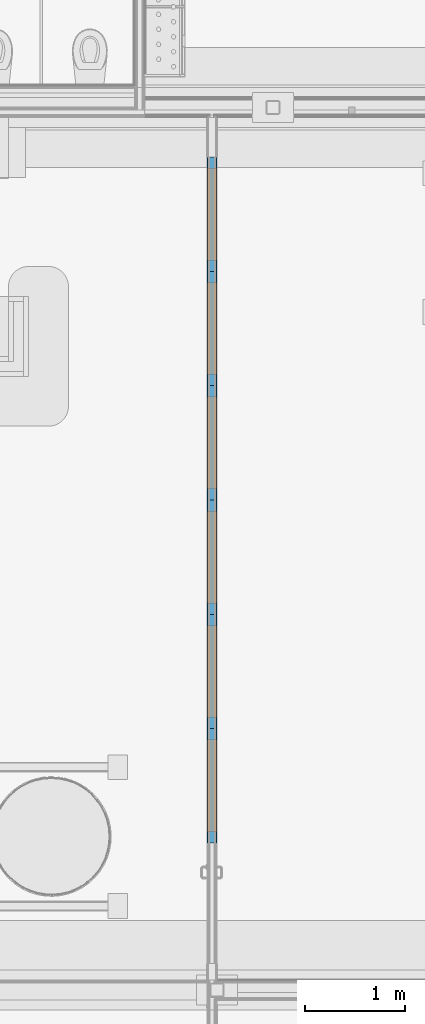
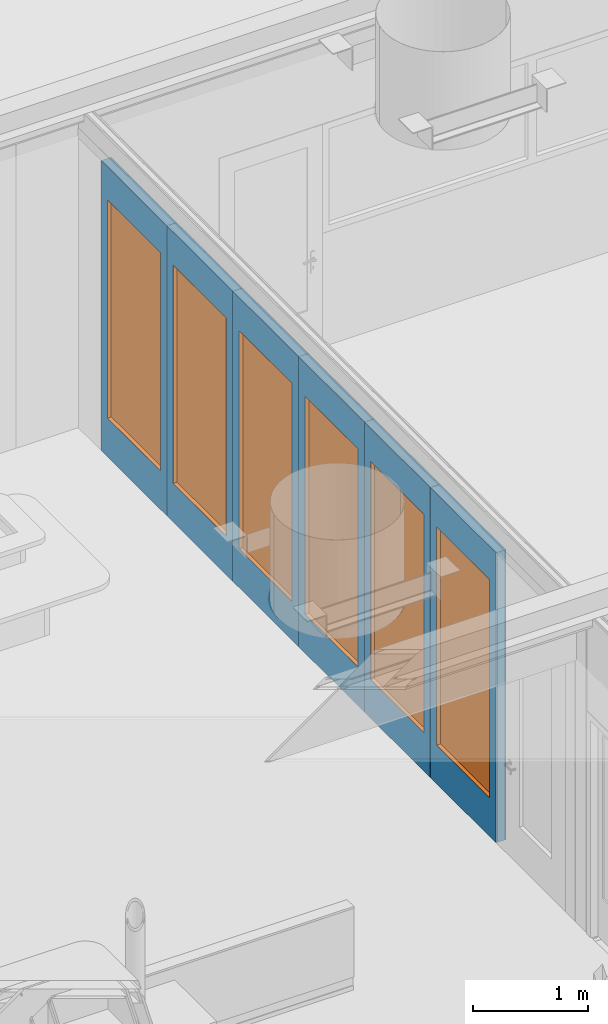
# One storey, part 18 of 788: 18 building element parts, 6 proxies, 6 openings, 6 elements without a shape of their own.
"""IFC2X3 building model written with IfcOpenShell, lengths in millimetres."""

from ifc_helpers import new_model, entity, si_unit, converted_unit, derived_unit, money_unit, direction, frame, origin_with_axes, place, context, subcontext, project, spatial, open_shell, faceted_brep, surface_model, source, transform, mapped, material, type_object, type_shapes, element, fill, aggregate, save


model = new_model("IFC2X3")

# Units and contexts
model_context = context("Model", 3, precision=0.01, world=origin_with_axes(), true_north=direction((0.0, 1.0)))
plan_context = context("Plan", 3, precision=0.01, world=origin_with_axes(), true_north=direction((0.0, 1.0)))
body_context = subcontext(model_context, "Body", "Model", "MODEL_VIEW")
ifc_project = project(units=[si_unit("LENGTHUNIT", "METRE", prefix="MILLI"), si_unit("AREAUNIT", "SQUARE_METRE"), si_unit("VOLUMEUNIT", "CUBIC_METRE"), converted_unit("PLANEANGLEUNIT", "DEGREE", entity("IfcPlaneAngleMeasure", 0.0174532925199), si_unit("PLANEANGLEUNIT", "RADIAN"), dimensions=[0, 0, 0, 0, 0, 0, 0]), money_unit("EUR"), converted_unit("TIMEUNIT", "Year", entity("IfcTimeMeasure", 31556926.0), si_unit("TIMEUNIT", "SECOND"), dimensions=[0, 0, 1, 0, 0, 0, 0]), si_unit("MASSUNIT", "GRAM", prefix="KILO"), si_unit("THERMODYNAMICTEMPERATUREUNIT", "DEGREE_CELSIUS"), si_unit("LUMINOUSINTENSITYUNIT", "LUMEN"), si_unit("ENERGYUNIT", "JOULE", prefix="MEGA"), derived_unit("THERMALCONDUCTANCEUNIT", [(si_unit("POWERUNIT", "WATT"), 1), (si_unit("LENGTHUNIT", "METRE"), -1), (si_unit("THERMODYNAMICTEMPERATUREUNIT", "KELVIN"), -1)]), derived_unit("SPECIFICHEATCAPACITYUNIT", [(si_unit("ENERGYUNIT", "JOULE"), 1), (si_unit("MASSUNIT", "GRAM", prefix="KILO"), -1), (si_unit("THERMODYNAMICTEMPERATUREUNIT", "KELVIN"), -1)]), derived_unit("MASSDENSITYUNIT", [(si_unit("MASSUNIT", "GRAM", prefix="KILO"), 1), (si_unit("VOLUMEUNIT", "CUBIC_METRE"), -1)])], contexts=[model_context, plan_context])

# Site, building, storey
site_placement = place(None, origin_with_axes())
site = spatial("IfcSite", under=ifc_project, at=site_placement, Name="Site", CompositionType="ELEMENT")
building_placement = place(site_placement, origin_with_axes())
building = spatial("IfcBuilding", under=site, at=building_placement, Name="Naam gebouw", CompositionType="ELEMENT")
storey_placement = place(building_placement, origin_with_axes())
storey = spatial("IfcBuildingStorey", under=building, at=storey_placement, Name="Begane grond", CompositionType="ELEMENT", Elevation=0.0)

# Proxy
building_element_proxy_type_1 = type_object("IfcBuildingElementProxyType", Name="R1 25", PredefinedType="NOTDEFINED")
shared_shape = source(origin_with_axes(), body_context, "Body", "SurfaceModel", [
    faceted_brep([(-460.5, -102.0, 2318.0), (-460.5, 0.0, 2318.0), (-462.5, 0.0, 2318.0), (-462.5, -102.0, 2318.0), (-460.5, -102.0, 2.0), (-460.5, 0.0, 2.0), (-462.5, 0.0, 2.0), (-462.5, -102.0, 2.0)], [[[0, 1, 2, 3]], [[4, 5, 1, 0]], [[1, 5, 6, 2]], [[3, 2, 6, 7]], [[0, 3, 7, 4]], [[7, 6, 5, 4]]]),
    faceted_brep([(460.5, -102.0, 2.0), (460.5, 0.0, 2.0), (462.5, 0.0, 2.0), (462.5, -102.0, 2.0), (460.5, -102.0, 2318.0), (460.5, 0.0, 2318.0), (462.5, 0.0, 2318.0), (462.5, -102.0, 2318.0)], [[[0, 1, 2, 3]], [[4, 5, 1, 0]], [[1, 5, 6, 2]], [[3, 2, 6, 7]], [[0, 3, 7, 4]], [[7, 6, 5, 4]]]),
    faceted_brep([(-460.5, -102.0, 2.0), (-460.5, 0.0, 2.0), (-462.5, 0.0, 2.0), (-462.5, -102.0, 2.0), (460.5, -102.0, 2.0), (460.5, 0.0, 2.0), (462.5, 0.0, 2.0), (462.5, 0.0, 0.0), (-462.5, 0.0, 0.0), (-462.5, -102.0, 0.0), (462.5, -102.0, 0.0), (462.5, -102.0, 2.0)], [[[0, 1, 2, 3]], [[4, 5, 1, 0]], [[1, 5, 6, 7, 8, 2]], [[3, 2, 8, 9]], [[0, 3, 9, 10, 11, 4]], [[11, 6, 5, 4]], [[10, 7, 6, 11]], [[9, 8, 7, 10]]]),
    faceted_brep([(460.5, -102.0, 2318.0), (460.5, 0.0, 2318.0), (462.5, 0.0, 2318.0), (462.5, -102.0, 2318.0), (-460.5, -102.0, 2318.0), (-460.5, 0.0, 2318.0), (-462.5, 0.0, 2318.0), (-462.5, 0.0, 2320.0), (462.5, 0.0, 2320.0), (462.5, -102.0, 2320.0), (-462.5, -102.0, 2320.0), (-462.5, -102.0, 2318.0)], [[[0, 1, 2, 3]], [[4, 5, 1, 0]], [[1, 5, 6, 7, 8, 2]], [[3, 2, 8, 9]], [[0, 3, 9, 10, 11, 4]], [[11, 6, 5, 4]], [[10, 7, 6, 11]], [[9, 8, 7, 10]]]),
    surface_model("IfcShellBasedSurfaceModel", [(-460.5, -64.0, 2.0), (460.5, -64.0, 2.0), (460.5, -64.0, 2318.0), (-460.5, -64.0, 2318.0)], [open_shell([[[0, 1, 2, 3]]])]),
    surface_model("IfcShellBasedSurfaceModel", [(-460.5, -44.0, 2.0), (-460.5, -44.0, 2318.0), (460.5, -44.0, 2318.0), (460.5, -44.0, 2.0)], [open_shell([[[0, 1, 2, 3]]])]),
])
type_shapes(building_element_proxy_type_1, [shared_shape])
proxy_7_placement = place(storey_placement, frame((38279.7087172, 14206.996428, 10.0), z_axis=(0.0, 0.0, 1.0), x_axis=(0.0, 1.0, 0.0)))
opening_1_placement = place(proxy_7_placement, frame((572.5, 0.0, 410.0), z_axis=(0.0, 0.0, 1.0), x_axis=(1.0, 0.0, 0.0)))
proxy_1_placement = place(opening_1_placement, frame((462.5, 0.0, 0.0), z_axis=(0.0, 0.0, 1.0), x_axis=(-1.0, 0.0, 0.0)))
proxy_1 = element("IfcBuildingElementProxy", 1, at=proxy_1_placement, inside=storey, type_object=building_element_proxy_type_1, Name="raam panelenwand", context=body_context, shape_type="MappedRepresentation", body=[
    mapped(shared_shape, transform((462.5, 51.0, 0.0))),
])

proxy_8_placement = place(storey_placement, frame((38279.7087172, 15352.996428, 10.0), z_axis=(0.0, 0.0, 1.0), x_axis=(0.0, 1.0, 0.0)))
opening_2_placement = place(proxy_8_placement, frame((572.5, 0.0, 410.0), z_axis=(0.0, 0.0, 1.0), x_axis=(1.0, 0.0, 0.0)))
proxy_2_placement = place(opening_2_placement, frame((462.5, 0.0, 0.0), z_axis=(0.0, 0.0, 1.0), x_axis=(-1.0, 0.0, 0.0)))
proxy_2 = element("IfcBuildingElementProxy", 2, at=proxy_2_placement, inside=storey, type_object=building_element_proxy_type_1, Name="raam panelenwand", context=body_context, shape_type="MappedRepresentation", body=[
    mapped(shared_shape, transform((462.5, 51.0, 0.0))),
])

proxy_9_placement = place(storey_placement, frame((38279.7087172, 16498.996428, 10.0), z_axis=(0.0, 0.0, 1.0), x_axis=(0.0, 1.0, 0.0)))
opening_3_placement = place(proxy_9_placement, frame((572.5, 0.0, 410.0), z_axis=(0.0, 0.0, 1.0), x_axis=(1.0, 0.0, 0.0)))
proxy_3_placement = place(opening_3_placement, frame((462.5, 0.0, 0.0), z_axis=(0.0, 0.0, 1.0), x_axis=(-1.0, 0.0, 0.0)))
proxy_3 = element("IfcBuildingElementProxy", 3, at=proxy_3_placement, inside=storey, type_object=building_element_proxy_type_1, Name="raam panelenwand", context=body_context, shape_type="MappedRepresentation", body=[
    mapped(shared_shape, transform((462.5, 51.0, 0.0))),
])

proxy_10_placement = place(storey_placement, frame((38279.7087172, 17644.996428, 10.0), z_axis=(0.0, 0.0, 1.0), x_axis=(0.0, 1.0, 0.0)))
opening_4_placement = place(proxy_10_placement, frame((572.5, 0.0, 410.0), z_axis=(0.0, 0.0, 1.0), x_axis=(1.0, 0.0, 0.0)))
proxy_4_placement = place(opening_4_placement, frame((462.5, 0.0, 0.0), z_axis=(0.0, 0.0, 1.0), x_axis=(-1.0, 0.0, 0.0)))
proxy_4 = element("IfcBuildingElementProxy", 4, at=proxy_4_placement, inside=storey, type_object=building_element_proxy_type_1, Name="raam panelenwand", context=body_context, shape_type="MappedRepresentation", body=[
    mapped(shared_shape, transform((462.5, 51.0, 0.0))),
])

proxy_11_placement = place(storey_placement, frame((38279.7087172, 18790.996428, 10.0), z_axis=(0.0, 0.0, 1.0), x_axis=(0.0, 1.0, 0.0)))
opening_5_placement = place(proxy_11_placement, frame((572.5, 0.0, 410.0), z_axis=(0.0, 0.0, 1.0), x_axis=(1.0, 0.0, 0.0)))
proxy_5_placement = place(opening_5_placement, frame((462.5, 0.0, 0.0), z_axis=(0.0, 0.0, 1.0), x_axis=(-1.0, 0.0, 0.0)))
proxy_5 = element("IfcBuildingElementProxy", 5, at=proxy_5_placement, inside=storey, type_object=building_element_proxy_type_1, Name="raam panelenwand", context=body_context, shape_type="MappedRepresentation", body=[
    mapped(shared_shape, transform((462.5, 51.0, 0.0))),
])

proxy_12_placement = place(storey_placement, frame((38279.7087172, 19936.996428, 10.0), z_axis=(0.0, 0.0, 1.0), x_axis=(0.0, 1.0, 0.0)))
opening_6_placement = place(proxy_12_placement, frame((572.5, 0.0, 410.0), z_axis=(0.0, 0.0, 1.0), x_axis=(1.0, 0.0, 0.0)))
proxy_6_placement = place(opening_6_placement, frame((462.5, 0.0, 0.0), z_axis=(0.0, 0.0, 1.0), x_axis=(-1.0, 0.0, 0.0)))
proxy_6 = element("IfcBuildingElementProxy", 6, at=proxy_6_placement, inside=storey, type_object=building_element_proxy_type_1, Name="raam panelenwand", context=body_context, shape_type="MappedRepresentation", body=[
    mapped(shared_shape, transform((462.5, 51.0, 0.0))),
])

# Proxy, opening
building_element_proxy_type_2 = type_object("IfcBuildingElementProxyType", Name="30 Panelenwand 102 102", PredefinedType="NOTDEFINED")
proxy_7 = element("IfcBuildingElementProxy", 7, at=proxy_7_placement, inside=storey, type_object=building_element_proxy_type_2, Name="panelenwand")
opening_1 = element("IfcOpeningElement", 8, at=opening_1_placement, cuts=proxy_7, Name="raam panelenwand", context=body_context, shape_type="Brep", body=[
    faceted_brep([(-462.5, -102.0, 0.0), (-462.5, -102.0, 2320.0), (-462.5, 204.0, 2320.0), (-462.5, 204.0, 0.0), (462.5, -102.0, 0.0), (462.5, -102.0, 2320.0), (462.5, 204.0, 2320.0), (462.5, 204.0, 0.0)], [[[0, 1, 2, 3]], [[0, 4, 5, 1]], [[1, 5, 6, 2]], [[3, 2, 6, 7]], [[4, 0, 3, 7]], [[5, 4, 7, 6]]]),
])

fill(opening_1, proxy_1)

# Building element part
ifc_material_1 = material(Name="Gipsplaat")
building_element_part_1_placement = place(proxy_7_placement, origin_with_axes())
building_element_part_1 = element("IfcBuildingElementPart", 9, at=building_element_part_1_placement, material=ifc_material_1, Name="Gipsplaat", context=body_context, shape_type="Brep", body=[
    faceted_brep([(1145.0, 51.0, 0.0), (0.0, 51.0, 0.0), (0.0, 51.0, 3080.0), (1145.0, 51.0, 3080.0), (110.0, 51.0, 410.0), (1035.0, 51.0, 410.0), (1035.0, 51.0, 2730.0), (110.0, 51.0, 2730.0), (1145.0, 38.5, 0.0), (0.0, 38.5, 0.0), (0.0, 38.5, 3080.0), (1145.0, 38.5, 3080.0), (110.0, 38.5, 410.0), (1035.0, 38.5, 410.0), (1035.0, 38.5, 2730.0), (110.0, 38.5, 2730.0)], [[[0, 1, 2, 3], [4, 5, 6, 7]], [[8, 9, 1, 0]], [[2, 1, 9, 10]], [[3, 2, 10, 11]], [[8, 0, 3, 11]], [[12, 13, 5, 4]], [[13, 14, 6, 5]], [[14, 15, 7, 6]], [[15, 12, 4, 7]], [[11, 10, 9, 8], [12, 15, 14, 13]]]),
])

ifc_material_2 = material(Name="Lucht frame_wit")
building_element_part_2_placement = place(proxy_7_placement, origin_with_axes())
building_element_part_2 = element("IfcBuildingElementPart", 10, at=building_element_part_2_placement, material=ifc_material_2, Name="Lucht frame_wit", context=body_context, shape_type="Brep", body=[
    faceted_brep([(1145.0, 38.5, 0.0), (0.0, 38.5, 0.0), (0.0, 38.5, 3080.0), (1145.0, 38.5, 3080.0), (110.0, 38.5, 410.0), (1035.0, 38.5, 410.0), (1035.0, 38.5, 2730.0), (110.0, 38.5, 2730.0), (1145.0, -38.5, 0.0), (0.0, -38.5, 0.0), (0.0, -38.5, 3080.0), (1145.0, -38.5, 3080.0), (110.0, -38.5, 410.0), (1035.0, -38.5, 410.0), (1035.0, -38.5, 2730.0), (110.0, -38.5, 2730.0)], [[[0, 1, 2, 3], [4, 5, 6, 7]], [[8, 9, 1, 0]], [[2, 1, 9, 10]], [[3, 2, 10, 11]], [[8, 0, 3, 11]], [[12, 13, 5, 4]], [[13, 14, 6, 5]], [[14, 15, 7, 6]], [[15, 12, 4, 7]], [[11, 10, 9, 8], [12, 15, 14, 13]]]),
])

building_element_part_3_placement = place(proxy_7_placement, origin_with_axes())
building_element_part_3 = element("IfcBuildingElementPart", 11, at=building_element_part_3_placement, material=ifc_material_1, Name="Gipsplaat", context=body_context, shape_type="Brep", body=[
    faceted_brep([(1145.0, -38.5, 0.0), (0.0, -38.5, 0.0), (0.0, -38.5, 3080.0), (1145.0, -38.5, 3080.0), (110.0, -38.5, 410.0), (1035.0, -38.5, 410.0), (1035.0, -38.5, 2730.0), (110.0, -38.5, 2730.0), (1145.0, -51.0, 0.0), (0.0, -51.0, 0.0), (0.0, -51.0, 3080.0), (1145.0, -51.0, 3080.0), (110.0, -51.0, 410.0), (1035.0, -51.0, 410.0), (1035.0, -51.0, 2730.0), (110.0, -51.0, 2730.0)], [[[0, 1, 2, 3], [4, 5, 6, 7]], [[8, 9, 1, 0]], [[2, 1, 9, 10]], [[3, 2, 10, 11]], [[8, 0, 3, 11]], [[12, 13, 5, 4]], [[13, 14, 6, 5]], [[14, 15, 7, 6]], [[15, 12, 4, 7]], [[11, 10, 9, 8], [12, 15, 14, 13]]]),
])

aggregate(proxy_7, [building_element_part_1, building_element_part_2, building_element_part_3])

# Proxy, opening
proxy_8 = element("IfcBuildingElementProxy", 12, at=proxy_8_placement, inside=storey, type_object=building_element_proxy_type_2, Name="panelenwand")
opening_2 = element("IfcOpeningElement", 13, at=opening_2_placement, cuts=proxy_8, Name="raam panelenwand", context=body_context, shape_type="Brep", body=[
    faceted_brep([(-462.5, -102.0, 0.0), (-462.5, -102.0, 2320.0), (-462.5, 204.0, 2320.0), (-462.5, 204.0, 0.0), (462.5, -102.0, 0.0), (462.5, -102.0, 2320.0), (462.5, 204.0, 2320.0), (462.5, 204.0, 0.0)], [[[0, 1, 2, 3]], [[0, 4, 5, 1]], [[1, 5, 6, 2]], [[3, 2, 6, 7]], [[4, 0, 3, 7]], [[5, 4, 7, 6]]]),
])

fill(opening_2, proxy_2)

# Building element part
building_element_part_4_placement = place(proxy_8_placement, origin_with_axes())
building_element_part_4 = element("IfcBuildingElementPart", 14, at=building_element_part_4_placement, material=ifc_material_1, Name="Gipsplaat", context=body_context, shape_type="Brep", body=[
    faceted_brep([(1145.0, 51.0, 0.0), (0.0, 51.0, 0.0), (0.0, 51.0, 3080.0), (1145.0, 51.0, 3080.0), (110.0, 51.0, 410.0), (1035.0, 51.0, 410.0), (1035.0, 51.0, 2730.0), (110.0, 51.0, 2730.0), (1145.0, 38.5, 0.0), (0.0, 38.5, 0.0), (0.0, 38.5, 3080.0), (1145.0, 38.5, 3080.0), (110.0, 38.5, 410.0), (1035.0, 38.5, 410.0), (1035.0, 38.5, 2730.0), (110.0, 38.5, 2730.0)], [[[0, 1, 2, 3], [4, 5, 6, 7]], [[8, 9, 1, 0]], [[2, 1, 9, 10]], [[3, 2, 10, 11]], [[8, 0, 3, 11]], [[12, 13, 5, 4]], [[13, 14, 6, 5]], [[14, 15, 7, 6]], [[15, 12, 4, 7]], [[11, 10, 9, 8], [12, 15, 14, 13]]]),
])

building_element_part_5_placement = place(proxy_8_placement, origin_with_axes())
building_element_part_5 = element("IfcBuildingElementPart", 15, at=building_element_part_5_placement, material=ifc_material_2, Name="Lucht frame_wit", context=body_context, shape_type="Brep", body=[
    faceted_brep([(1145.0, 38.5, 0.0), (0.0, 38.5, 0.0), (0.0, 38.5, 3080.0), (1145.0, 38.5, 3080.0), (110.0, 38.5, 410.0), (1035.0, 38.5, 410.0), (1035.0, 38.5, 2730.0), (110.0, 38.5, 2730.0), (1145.0, -38.5, 0.0), (0.0, -38.5, 0.0), (0.0, -38.5, 3080.0), (1145.0, -38.5, 3080.0), (110.0, -38.5, 410.0), (1035.0, -38.5, 410.0), (1035.0, -38.5, 2730.0), (110.0, -38.5, 2730.0)], [[[0, 1, 2, 3], [4, 5, 6, 7]], [[8, 9, 1, 0]], [[2, 1, 9, 10]], [[3, 2, 10, 11]], [[8, 0, 3, 11]], [[12, 13, 5, 4]], [[13, 14, 6, 5]], [[14, 15, 7, 6]], [[15, 12, 4, 7]], [[11, 10, 9, 8], [12, 15, 14, 13]]]),
])

building_element_part_6_placement = place(proxy_8_placement, origin_with_axes())
building_element_part_6 = element("IfcBuildingElementPart", 16, at=building_element_part_6_placement, material=ifc_material_1, Name="Gipsplaat", context=body_context, shape_type="Brep", body=[
    faceted_brep([(1145.0, -38.5, 0.0), (0.0, -38.5, 0.0), (0.0, -38.5, 3080.0), (1145.0, -38.5, 3080.0), (110.0, -38.5, 410.0), (1035.0, -38.5, 410.0), (1035.0, -38.5, 2730.0), (110.0, -38.5, 2730.0), (1145.0, -51.0, 0.0), (0.0, -51.0, 0.0), (0.0, -51.0, 3080.0), (1145.0, -51.0, 3080.0), (110.0, -51.0, 410.0), (1035.0, -51.0, 410.0), (1035.0, -51.0, 2730.0), (110.0, -51.0, 2730.0)], [[[0, 1, 2, 3], [4, 5, 6, 7]], [[8, 9, 1, 0]], [[2, 1, 9, 10]], [[3, 2, 10, 11]], [[8, 0, 3, 11]], [[12, 13, 5, 4]], [[13, 14, 6, 5]], [[14, 15, 7, 6]], [[15, 12, 4, 7]], [[11, 10, 9, 8], [12, 15, 14, 13]]]),
])

aggregate(proxy_8, [building_element_part_4, building_element_part_5, building_element_part_6])

# Proxy, opening
proxy_9 = element("IfcBuildingElementProxy", 17, at=proxy_9_placement, inside=storey, type_object=building_element_proxy_type_2, Name="panelenwand")
opening_3 = element("IfcOpeningElement", 18, at=opening_3_placement, cuts=proxy_9, Name="raam panelenwand", context=body_context, shape_type="Brep", body=[
    faceted_brep([(-462.5, -102.0, 0.0), (-462.5, -102.0, 2320.0), (-462.5, 204.0, 2320.0), (-462.5, 204.0, 0.0), (462.5, -102.0, 0.0), (462.5, -102.0, 2320.0), (462.5, 204.0, 2320.0), (462.5, 204.0, 0.0)], [[[0, 1, 2, 3]], [[0, 4, 5, 1]], [[1, 5, 6, 2]], [[3, 2, 6, 7]], [[4, 0, 3, 7]], [[5, 4, 7, 6]]]),
])

fill(opening_3, proxy_3)

# Building element part
building_element_part_7_placement = place(proxy_9_placement, origin_with_axes())
building_element_part_7 = element("IfcBuildingElementPart", 19, at=building_element_part_7_placement, material=ifc_material_1, Name="Gipsplaat", context=body_context, shape_type="Brep", body=[
    faceted_brep([(1145.0, 51.0, 0.0), (0.0, 51.0, 0.0), (0.0, 51.0, 3080.0), (1145.0, 51.0, 3080.0), (110.0, 51.0, 410.0), (1035.0, 51.0, 410.0), (1035.0, 51.0, 2730.0), (110.0, 51.0, 2730.0), (1145.0, 38.5, 0.0), (0.0, 38.5, 0.0), (0.0, 38.5, 3080.0), (1145.0, 38.5, 3080.0), (110.0, 38.5, 410.0), (1035.0, 38.5, 410.0), (1035.0, 38.5, 2730.0), (110.0, 38.5, 2730.0)], [[[0, 1, 2, 3], [4, 5, 6, 7]], [[8, 9, 1, 0]], [[2, 1, 9, 10]], [[3, 2, 10, 11]], [[8, 0, 3, 11]], [[12, 13, 5, 4]], [[13, 14, 6, 5]], [[14, 15, 7, 6]], [[15, 12, 4, 7]], [[11, 10, 9, 8], [12, 15, 14, 13]]]),
])

building_element_part_8_placement = place(proxy_9_placement, origin_with_axes())
building_element_part_8 = element("IfcBuildingElementPart", 20, at=building_element_part_8_placement, material=ifc_material_2, Name="Lucht frame_wit", context=body_context, shape_type="Brep", body=[
    faceted_brep([(1145.0, 38.5, 0.0), (0.0, 38.5, 0.0), (0.0, 38.5, 3080.0), (1145.0, 38.5, 3080.0), (110.0, 38.5, 410.0), (1035.0, 38.5, 410.0), (1035.0, 38.5, 2730.0), (110.0, 38.5, 2730.0), (1145.0, -38.5, 0.0), (0.0, -38.5, 0.0), (0.0, -38.5, 3080.0), (1145.0, -38.5, 3080.0), (110.0, -38.5, 410.0), (1035.0, -38.5, 410.0), (1035.0, -38.5, 2730.0), (110.0, -38.5, 2730.0)], [[[0, 1, 2, 3], [4, 5, 6, 7]], [[8, 9, 1, 0]], [[2, 1, 9, 10]], [[3, 2, 10, 11]], [[8, 0, 3, 11]], [[12, 13, 5, 4]], [[13, 14, 6, 5]], [[14, 15, 7, 6]], [[15, 12, 4, 7]], [[11, 10, 9, 8], [12, 15, 14, 13]]]),
])

building_element_part_9_placement = place(proxy_9_placement, origin_with_axes())
building_element_part_9 = element("IfcBuildingElementPart", 21, at=building_element_part_9_placement, material=ifc_material_1, Name="Gipsplaat", context=body_context, shape_type="Brep", body=[
    faceted_brep([(1145.0, -38.5, 0.0), (0.0, -38.5, 0.0), (0.0, -38.5, 3080.0), (1145.0, -38.5, 3080.0), (110.0, -38.5, 410.0), (1035.0, -38.5, 410.0), (1035.0, -38.5, 2730.0), (110.0, -38.5, 2730.0), (1145.0, -51.0, 0.0), (0.0, -51.0, 0.0), (0.0, -51.0, 3080.0), (1145.0, -51.0, 3080.0), (110.0, -51.0, 410.0), (1035.0, -51.0, 410.0), (1035.0, -51.0, 2730.0), (110.0, -51.0, 2730.0)], [[[0, 1, 2, 3], [4, 5, 6, 7]], [[8, 9, 1, 0]], [[2, 1, 9, 10]], [[3, 2, 10, 11]], [[8, 0, 3, 11]], [[12, 13, 5, 4]], [[13, 14, 6, 5]], [[14, 15, 7, 6]], [[15, 12, 4, 7]], [[11, 10, 9, 8], [12, 15, 14, 13]]]),
])

aggregate(proxy_9, [building_element_part_7, building_element_part_8, building_element_part_9])

# Proxy, opening
proxy_10 = element("IfcBuildingElementProxy", 22, at=proxy_10_placement, inside=storey, type_object=building_element_proxy_type_2, Name="panelenwand")
opening_4 = element("IfcOpeningElement", 23, at=opening_4_placement, cuts=proxy_10, Name="raam panelenwand", context=body_context, shape_type="Brep", body=[
    faceted_brep([(-462.5, -102.0, 0.0), (-462.5, -102.0, 2320.0), (-462.5, 204.0, 2320.0), (-462.5, 204.0, 0.0), (462.5, -102.0, 0.0), (462.5, -102.0, 2320.0), (462.5, 204.0, 2320.0), (462.5, 204.0, 0.0)], [[[0, 1, 2, 3]], [[0, 4, 5, 1]], [[1, 5, 6, 2]], [[3, 2, 6, 7]], [[4, 0, 3, 7]], [[5, 4, 7, 6]]]),
])

fill(opening_4, proxy_4)

# Building element part
building_element_part_10_placement = place(proxy_10_placement, origin_with_axes())
building_element_part_10 = element("IfcBuildingElementPart", 24, at=building_element_part_10_placement, material=ifc_material_1, Name="Gipsplaat", context=body_context, shape_type="Brep", body=[
    faceted_brep([(1145.0, 51.0, 0.0), (0.0, 51.0, 0.0), (0.0, 51.0, 3080.0), (1145.0, 51.0, 3080.0), (110.0, 51.0, 410.0), (1035.0, 51.0, 410.0), (1035.0, 51.0, 2730.0), (110.0, 51.0, 2730.0), (1145.0, 38.5, 0.0), (0.0, 38.5, 0.0), (0.0, 38.5, 3080.0), (1145.0, 38.5, 3080.0), (110.0, 38.5, 410.0), (1035.0, 38.5, 410.0), (1035.0, 38.5, 2730.0), (110.0, 38.5, 2730.0)], [[[0, 1, 2, 3], [4, 5, 6, 7]], [[8, 9, 1, 0]], [[2, 1, 9, 10]], [[3, 2, 10, 11]], [[8, 0, 3, 11]], [[12, 13, 5, 4]], [[13, 14, 6, 5]], [[14, 15, 7, 6]], [[15, 12, 4, 7]], [[11, 10, 9, 8], [12, 15, 14, 13]]]),
])

building_element_part_11_placement = place(proxy_10_placement, origin_with_axes())
building_element_part_11 = element("IfcBuildingElementPart", 25, at=building_element_part_11_placement, material=ifc_material_2, Name="Lucht frame_wit", context=body_context, shape_type="Brep", body=[
    faceted_brep([(1145.0, 38.5, 0.0), (0.0, 38.5, 0.0), (0.0, 38.5, 3080.0), (1145.0, 38.5, 3080.0), (110.0, 38.5, 410.0), (1035.0, 38.5, 410.0), (1035.0, 38.5, 2730.0), (110.0, 38.5, 2730.0), (1145.0, -38.5, 0.0), (0.0, -38.5, 0.0), (0.0, -38.5, 3080.0), (1145.0, -38.5, 3080.0), (110.0, -38.5, 410.0), (1035.0, -38.5, 410.0), (1035.0, -38.5, 2730.0), (110.0, -38.5, 2730.0)], [[[0, 1, 2, 3], [4, 5, 6, 7]], [[8, 9, 1, 0]], [[2, 1, 9, 10]], [[3, 2, 10, 11]], [[8, 0, 3, 11]], [[12, 13, 5, 4]], [[13, 14, 6, 5]], [[14, 15, 7, 6]], [[15, 12, 4, 7]], [[11, 10, 9, 8], [12, 15, 14, 13]]]),
])

building_element_part_12_placement = place(proxy_10_placement, origin_with_axes())
building_element_part_12 = element("IfcBuildingElementPart", 26, at=building_element_part_12_placement, material=ifc_material_1, Name="Gipsplaat", context=body_context, shape_type="Brep", body=[
    faceted_brep([(1145.0, -38.5, 0.0), (0.0, -38.5, 0.0), (0.0, -38.5, 3080.0), (1145.0, -38.5, 3080.0), (110.0, -38.5, 410.0), (1035.0, -38.5, 410.0), (1035.0, -38.5, 2730.0), (110.0, -38.5, 2730.0), (1145.0, -51.0, 0.0), (0.0, -51.0, 0.0), (0.0, -51.0, 3080.0), (1145.0, -51.0, 3080.0), (110.0, -51.0, 410.0), (1035.0, -51.0, 410.0), (1035.0, -51.0, 2730.0), (110.0, -51.0, 2730.0)], [[[0, 1, 2, 3], [4, 5, 6, 7]], [[8, 9, 1, 0]], [[2, 1, 9, 10]], [[3, 2, 10, 11]], [[8, 0, 3, 11]], [[12, 13, 5, 4]], [[13, 14, 6, 5]], [[14, 15, 7, 6]], [[15, 12, 4, 7]], [[11, 10, 9, 8], [12, 15, 14, 13]]]),
])

aggregate(proxy_10, [building_element_part_10, building_element_part_11, building_element_part_12])

# Proxy, opening
proxy_11 = element("IfcBuildingElementProxy", 27, at=proxy_11_placement, inside=storey, type_object=building_element_proxy_type_2, Name="panelenwand")
opening_5 = element("IfcOpeningElement", 28, at=opening_5_placement, cuts=proxy_11, Name="raam panelenwand", context=body_context, shape_type="Brep", body=[
    faceted_brep([(-462.5, -102.0, 0.0), (-462.5, -102.0, 2320.0), (-462.5, 204.0, 2320.0), (-462.5, 204.0, 0.0), (462.5, -102.0, 0.0), (462.5, -102.0, 2320.0), (462.5, 204.0, 2320.0), (462.5, 204.0, 0.0)], [[[0, 1, 2, 3]], [[0, 4, 5, 1]], [[1, 5, 6, 2]], [[3, 2, 6, 7]], [[4, 0, 3, 7]], [[5, 4, 7, 6]]]),
])

fill(opening_5, proxy_5)

# Building element part
building_element_part_13_placement = place(proxy_11_placement, origin_with_axes())
building_element_part_13 = element("IfcBuildingElementPart", 29, at=building_element_part_13_placement, material=ifc_material_1, Name="Gipsplaat", context=body_context, shape_type="Brep", body=[
    faceted_brep([(1145.0, 51.0, 0.0), (0.0, 51.0, 0.0), (0.0, 51.0, 3080.0), (1145.0, 51.0, 3080.0), (110.0, 51.0, 410.0), (1035.0, 51.0, 410.0), (1035.0, 51.0, 2730.0), (110.0, 51.0, 2730.0), (1145.0, 38.5, 0.0), (0.0, 38.5, 0.0), (0.0, 38.5, 3080.0), (1145.0, 38.5, 3080.0), (110.0, 38.5, 410.0), (1035.0, 38.5, 410.0), (1035.0, 38.5, 2730.0), (110.0, 38.5, 2730.0)], [[[0, 1, 2, 3], [4, 5, 6, 7]], [[8, 9, 1, 0]], [[2, 1, 9, 10]], [[3, 2, 10, 11]], [[8, 0, 3, 11]], [[12, 13, 5, 4]], [[13, 14, 6, 5]], [[14, 15, 7, 6]], [[15, 12, 4, 7]], [[11, 10, 9, 8], [12, 15, 14, 13]]]),
])

building_element_part_14_placement = place(proxy_11_placement, origin_with_axes())
building_element_part_14 = element("IfcBuildingElementPart", 30, at=building_element_part_14_placement, material=ifc_material_2, Name="Lucht frame_wit", context=body_context, shape_type="Brep", body=[
    faceted_brep([(1145.0, 38.5, 0.0), (0.0, 38.5, 0.0), (0.0, 38.5, 3080.0), (1145.0, 38.5, 3080.0), (110.0, 38.5, 410.0), (1035.0, 38.5, 410.0), (1035.0, 38.5, 2730.0), (110.0, 38.5, 2730.0), (1145.0, -38.5, 0.0), (0.0, -38.5, 0.0), (0.0, -38.5, 3080.0), (1145.0, -38.5, 3080.0), (110.0, -38.5, 410.0), (1035.0, -38.5, 410.0), (1035.0, -38.5, 2730.0), (110.0, -38.5, 2730.0)], [[[0, 1, 2, 3], [4, 5, 6, 7]], [[8, 9, 1, 0]], [[2, 1, 9, 10]], [[3, 2, 10, 11]], [[8, 0, 3, 11]], [[12, 13, 5, 4]], [[13, 14, 6, 5]], [[14, 15, 7, 6]], [[15, 12, 4, 7]], [[11, 10, 9, 8], [12, 15, 14, 13]]]),
])

building_element_part_15_placement = place(proxy_11_placement, origin_with_axes())
building_element_part_15 = element("IfcBuildingElementPart", 31, at=building_element_part_15_placement, material=ifc_material_1, Name="Gipsplaat", context=body_context, shape_type="Brep", body=[
    faceted_brep([(1145.0, -38.5, 0.0), (0.0, -38.5, 0.0), (0.0, -38.5, 3080.0), (1145.0, -38.5, 3080.0), (110.0, -38.5, 410.0), (1035.0, -38.5, 410.0), (1035.0, -38.5, 2730.0), (110.0, -38.5, 2730.0), (1145.0, -51.0, 0.0), (0.0, -51.0, 0.0), (0.0, -51.0, 3080.0), (1145.0, -51.0, 3080.0), (110.0, -51.0, 410.0), (1035.0, -51.0, 410.0), (1035.0, -51.0, 2730.0), (110.0, -51.0, 2730.0)], [[[0, 1, 2, 3], [4, 5, 6, 7]], [[8, 9, 1, 0]], [[2, 1, 9, 10]], [[3, 2, 10, 11]], [[8, 0, 3, 11]], [[12, 13, 5, 4]], [[13, 14, 6, 5]], [[14, 15, 7, 6]], [[15, 12, 4, 7]], [[11, 10, 9, 8], [12, 15, 14, 13]]]),
])

aggregate(proxy_11, [building_element_part_13, building_element_part_14, building_element_part_15])

# Proxy, opening
proxy_12 = element("IfcBuildingElementProxy", 32, at=proxy_12_placement, inside=storey, type_object=building_element_proxy_type_2, Name="panelenwand")
opening_6 = element("IfcOpeningElement", 33, at=opening_6_placement, cuts=proxy_12, Name="raam panelenwand", context=body_context, shape_type="Brep", body=[
    faceted_brep([(-462.5, -102.0, 0.0), (-462.5, -102.0, 2320.0), (-462.5, 204.0, 2320.0), (-462.5, 204.0, 0.0), (462.5, -102.0, 0.0), (462.5, -102.0, 2320.0), (462.5, 204.0, 2320.0), (462.5, 204.0, 0.0)], [[[0, 1, 2, 3]], [[0, 4, 5, 1]], [[1, 5, 6, 2]], [[3, 2, 6, 7]], [[4, 0, 3, 7]], [[5, 4, 7, 6]]]),
])

fill(opening_6, proxy_6)

# Building element part
building_element_part_16_placement = place(proxy_12_placement, origin_with_axes())
building_element_part_16 = element("IfcBuildingElementPart", 34, at=building_element_part_16_placement, material=ifc_material_1, Name="Gipsplaat", context=body_context, shape_type="Brep", body=[
    faceted_brep([(1145.0, 51.0, 0.0), (0.0, 51.0, 0.0), (0.0, 51.0, 3080.0), (1145.0, 51.0, 3080.0), (110.0, 51.0, 410.0), (1035.0, 51.0, 410.0), (1035.0, 51.0, 2730.0), (110.0, 51.0, 2730.0), (1145.0, 38.5, 0.0), (0.0, 38.5, 0.0), (0.0, 38.5, 3080.0), (1145.0, 38.5, 3080.0), (110.0, 38.5, 410.0), (1035.0, 38.5, 410.0), (1035.0, 38.5, 2730.0), (110.0, 38.5, 2730.0)], [[[0, 1, 2, 3], [4, 5, 6, 7]], [[8, 9, 1, 0]], [[2, 1, 9, 10]], [[3, 2, 10, 11]], [[8, 0, 3, 11]], [[12, 13, 5, 4]], [[13, 14, 6, 5]], [[14, 15, 7, 6]], [[15, 12, 4, 7]], [[11, 10, 9, 8], [12, 15, 14, 13]]]),
])

building_element_part_17_placement = place(proxy_12_placement, origin_with_axes())
building_element_part_17 = element("IfcBuildingElementPart", 35, at=building_element_part_17_placement, material=ifc_material_2, Name="Lucht frame_wit", context=body_context, shape_type="Brep", body=[
    faceted_brep([(1145.0, 38.5, 0.0), (0.0, 38.5, 0.0), (0.0, 38.5, 3080.0), (1145.0, 38.5, 3080.0), (110.0, 38.5, 410.0), (1035.0, 38.5, 410.0), (1035.0, 38.5, 2730.0), (110.0, 38.5, 2730.0), (1145.0, -38.5, 0.0), (0.0, -38.5, 0.0), (0.0, -38.5, 3080.0), (1145.0, -38.5, 3080.0), (110.0, -38.5, 410.0), (1035.0, -38.5, 410.0), (1035.0, -38.5, 2730.0), (110.0, -38.5, 2730.0)], [[[0, 1, 2, 3], [4, 5, 6, 7]], [[8, 9, 1, 0]], [[2, 1, 9, 10]], [[3, 2, 10, 11]], [[8, 0, 3, 11]], [[12, 13, 5, 4]], [[13, 14, 6, 5]], [[14, 15, 7, 6]], [[15, 12, 4, 7]], [[11, 10, 9, 8], [12, 15, 14, 13]]]),
])

building_element_part_18_placement = place(proxy_12_placement, origin_with_axes())
building_element_part_18 = element("IfcBuildingElementPart", 36, at=building_element_part_18_placement, material=ifc_material_1, Name="Gipsplaat", context=body_context, shape_type="Brep", body=[
    faceted_brep([(1145.0, -38.5, 0.0), (0.0, -38.5, 0.0), (0.0, -38.5, 3080.0), (1145.0, -38.5, 3080.0), (110.0, -38.5, 410.0), (1035.0, -38.5, 410.0), (1035.0, -38.5, 2730.0), (110.0, -38.5, 2730.0), (1145.0, -51.0, 0.0), (0.0, -51.0, 0.0), (0.0, -51.0, 3080.0), (1145.0, -51.0, 3080.0), (110.0, -51.0, 410.0), (1035.0, -51.0, 410.0), (1035.0, -51.0, 2730.0), (110.0, -51.0, 2730.0)], [[[0, 1, 2, 3], [4, 5, 6, 7]], [[8, 9, 1, 0]], [[2, 1, 9, 10]], [[3, 2, 10, 11]], [[8, 0, 3, 11]], [[12, 13, 5, 4]], [[13, 14, 6, 5]], [[14, 15, 7, 6]], [[15, 12, 4, 7]], [[11, 10, 9, 8], [12, 15, 14, 13]]]),
])

aggregate(proxy_12, [building_element_part_16, building_element_part_17, building_element_part_18])

save(model, "model.ifc")
